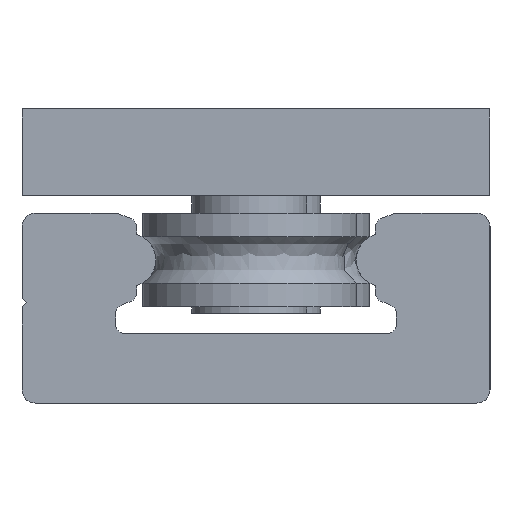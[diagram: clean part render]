
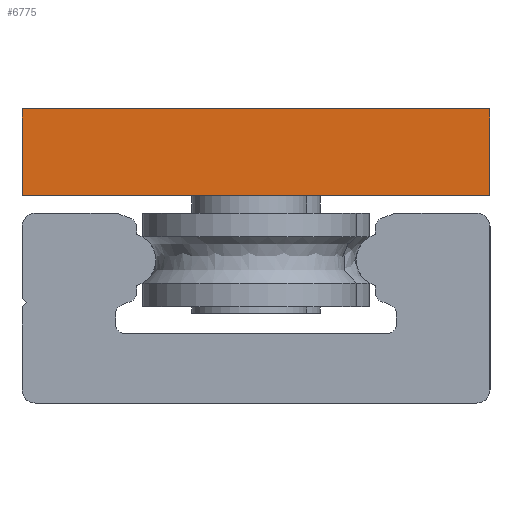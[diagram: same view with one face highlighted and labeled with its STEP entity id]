
A CAD part, left-side view. The second image highlights one B-rep face of the part: STEP entity #6775.
In plain terms, the highlighted planar face has unit normal (-1, 0, 0).
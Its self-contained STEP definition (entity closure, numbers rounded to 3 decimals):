
#6595=CARTESIAN_POINT('',(0.0,-17.5,11.3));
#6596=VERTEX_POINT('',#6595);
#6603=CARTESIAN_POINT('',(0.0,-17.5,4.8));
#6604=VERTEX_POINT('',#6603);
#6605=CARTESIAN_POINT('',(0.0,-17.5,11.3));
#6606=DIRECTION('',(0.0,0.0,-1.0));
#6607=VECTOR('',#6606,6.5);
#6608=LINE('',#6605,#6607);
#6609=EDGE_CURVE('',#6596,#6604,#6608,.T.);
#6633=CARTESIAN_POINT('',(0.0,17.5,11.3));
#6634=VERTEX_POINT('',#6633);
#6641=CARTESIAN_POINT('',(0.0,17.5,11.3));
#6642=DIRECTION('',(0.0,-1.0,0.0));
#6643=VECTOR('',#6642,35.0);
#6644=LINE('',#6641,#6643);
#6645=EDGE_CURVE('',#6634,#6596,#6644,.T.);
#6694=CARTESIAN_POINT('',(0.0,17.5,4.8));
#6695=VERTEX_POINT('',#6694);
#6702=CARTESIAN_POINT('',(0.0,17.5,4.8));
#6703=DIRECTION('',(0.0,0.0,1.0));
#6704=VECTOR('',#6703,6.5);
#6705=LINE('',#6702,#6704);
#6706=EDGE_CURVE('',#6695,#6634,#6705,.T.);
#6724=CARTESIAN_POINT('',(0.0,-17.5,4.8));
#6725=DIRECTION('',(0.0,1.0,0.0));
#6726=VECTOR('',#6725,35.0);
#6727=LINE('',#6724,#6726);
#6728=EDGE_CURVE('',#6604,#6695,#6727,.T.);
#6764=CARTESIAN_POINT('',(0.0,0.,8.05));
#6765=DIRECTION('',(1.0,0.0,0.0));
#6766=DIRECTION('',(0.0,0.0,-1.0));
#6767=AXIS2_PLACEMENT_3D('',#6764,#6765,#6766);
#6768=PLANE('',#6767);
#6769=ORIENTED_EDGE('',*,*,#6728,.F.);
#6770=ORIENTED_EDGE('',*,*,#6609,.F.);
#6771=ORIENTED_EDGE('',*,*,#6645,.F.);
#6772=ORIENTED_EDGE('',*,*,#6706,.F.);
#6773=EDGE_LOOP('',(#6769,#6770,#6771,#6772));
#6774=FACE_OUTER_BOUND('',#6773,.T.);
#6775=ADVANCED_FACE('',(#6774),#6768,.F.);
